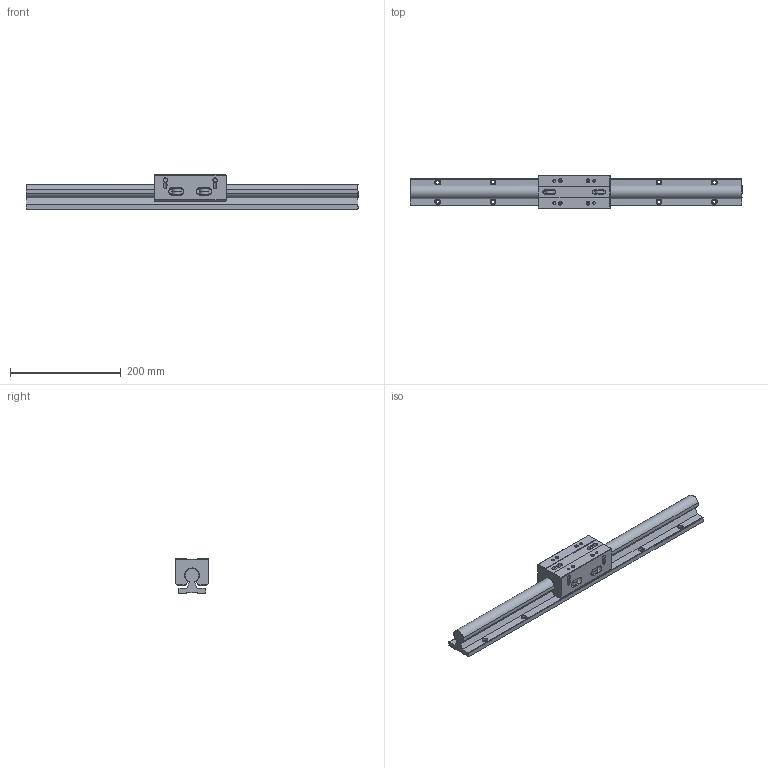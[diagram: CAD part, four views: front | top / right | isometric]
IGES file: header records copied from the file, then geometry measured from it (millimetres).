
Global section: file name: No Iges File Name specified; native system: AutoDesk Inventor R10; preprocessor: AutoDesk Inventor Iges Exporter R10; author: No Author specified; organization: No Organization specified; date: 20101222.155531; units: millimetre
Bounding box: 600 x 60 x 62 mm (x, y, z)
Surface area: 174524.4 mm2 (no closed solid volume)
Topology: 0 solids, 0 shells, 528 faces, 3928 edges, 3900 vertices
Faces by surface type: bspline 528
